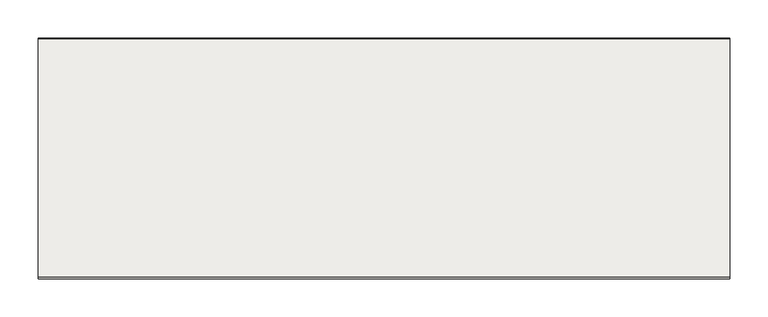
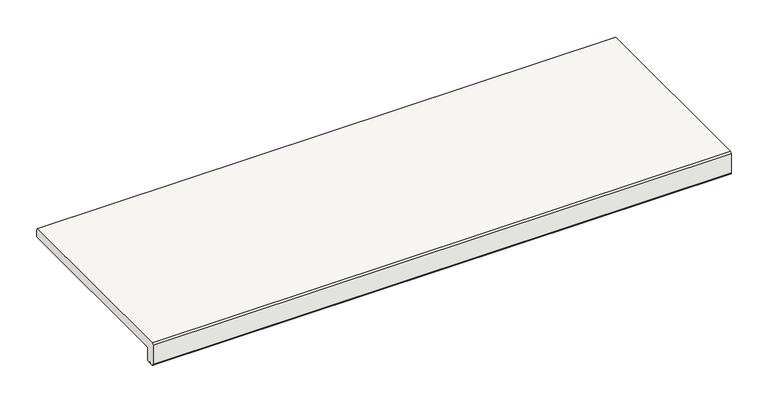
"""IFC4 building model written with IfcOpenShell, lengths in millimetres: slab geometry, ROSA GRES_L62 : Pieza L62_Tresor_Java_Anti-Slip."""

import ifcopenshell
import ifcopenshell.guid

model = None  # the IFC model being written
_history = None  # IfcOwnerHistory: only IFC2X3 demands one
_inside = {}  # id of a spatial element -> (the spatial element, [elements in it])
_under = {}  # id of a project, library or spatial element -> (it, [spatial elements below it])
_declared = {}  # id of a project -> (the project, [libraries it declares])
_typed = {}  # id of a type object -> (the type object, [elements of that type])
_made_of = {}  # id of a material, layer set ... -> (it, [elements and type objects made of it])


def new_model(schema):
    """Start an empty IFC model of exactly this schema.

    Asked for "IFC4X3", IfcOpenShell would pick the latest addendum, in which some entities
    have other attributes; the version numbers below select the first issue.
    IFC2X3 requires an IfcOwnerHistory on every rooted entity: one is made here for all.
    """
    global model, _history
    if schema == "IFC4X3":
        model = ifcopenshell.file(schema_version=(4, 3, 0, 0))
    else:
        model = ifcopenshell.file(schema=schema)
    _inside.clear()
    _under.clear()
    _declared.clear()
    _typed.clear()
    _made_of.clear()
    _history = None
    if model.schema == "IFC2X3":
        org = make("IfcOrganization", Name="unknown")
        user = make(
            "IfcPersonAndOrganization",
            ThePerson=make("IfcPerson", FamilyName="unknown"),
            TheOrganization=org,
        )
        app = make(
            "IfcApplication",
            ApplicationDeveloper=org,
            Version="unknown",
            ApplicationFullName="unknown",
            ApplicationIdentifier="unknown",
        )
        _history = make(
            "IfcOwnerHistory",
            OwningUser=user,
            OwningApplication=app,
            ChangeAction="ADDED",
            CreationDate=0,
        )
    return model


def make(cls, **values):
    """One entity of the class cls with the attributes given. An attribute that is None is left unset."""
    return model.create_entity(
        cls, **{name: value for name, value in values.items() if value is not None}
    )


def rooted(cls, **values):
    """An entity with a GlobalId (a new one), such as an element, a storey or a relation."""
    return make(cls, GlobalId=ifcopenshell.guid.new(), OwnerHistory=_history, **values)


def si_unit(unit_type, name, prefix=None):
    """IfcSIUnit, for example si_unit("LENGTHUNIT", "METRE", prefix="MILLI")."""
    return make("IfcSIUnit", UnitType=unit_type, Prefix=prefix, Name=name)


def assignment(units):
    """IfcUnitAssignment: the units of a project."""
    return None if units is None else make("IfcUnitAssignment", Units=units)


def point(xyz):
    """IfcCartesianPoint."""
    return None if xyz is None else make("IfcCartesianPoint", Coordinates=xyz)


def direction(xyz):
    """IfcDirection."""
    return None if xyz is None else make("IfcDirection", DirectionRatios=xyz)


def frame(location, z_axis=None, x_axis=None):
    """IfcAxis2Placement3D, a coordinate frame: its origin and axes. An axis left out is left unset."""
    return make(
        "IfcAxis2Placement3D",
        Location=point(location),
        Axis=direction(z_axis),
        RefDirection=direction(x_axis),
    )


def frame_2d(location, x_axis=None):
    """IfcAxis2Placement2D, a coordinate frame in the plane: its origin and x axis."""
    return make(
        "IfcAxis2Placement2D", Location=point(location), RefDirection=direction(x_axis)
    )


def origin():
    """The frame at (0, 0, 0) with its axes left unset."""
    return frame((0.0, 0.0, 0.0))


def place(relative_to, where):
    """IfcLocalPlacement: puts the frame where relative to a parent placement (None: the world)."""
    return make(
        "IfcLocalPlacement", PlacementRelTo=relative_to, RelativePlacement=where
    )


def context(
    kind, dimensions, precision=None, world=None, true_north=None, identifier=None
):
    """IfcGeometricRepresentationContext, for example the 3D "Model" context."""
    return make(
        "IfcGeometricRepresentationContext",
        ContextIdentifier=identifier,
        ContextType=kind,
        CoordinateSpaceDimension=dimensions,
        Precision=precision,
        WorldCoordinateSystem=world,
        TrueNorth=true_north,
    )


def project(units=None, contexts=None):
    """IfcProject with its units and contexts."""
    return rooted(
        "IfcProject",
        Name="project",
        RepresentationContexts=contexts,
        UnitsInContext=assignment(units),
    )


def spatial(cls, under=None, at=None, **own):
    """A site, building, storey or space (cls), placed at a placement, below another one or the project."""
    s = rooted(cls, ObjectPlacement=at, **own)
    if under is not None:
        _under.setdefault(under.id(), (under, []))[1].append(s)
    return s


def polyline(points):
    """IfcPolyline through the points."""
    return make("IfcPolyline", Points=[point(p) for p in points])


def circle_curve(where, radius):
    """IfcCircle in the frame where."""
    return make("IfcCircle", Position=where, Radius=radius)


def trimmed(basis, trim1, trim2, sense, master):
    """IfcTrimmedCurve: the piece of a basis curve between two trims."""
    return make(
        "IfcTrimmedCurve",
        BasisCurve=basis,
        Trim1=trim1,
        Trim2=trim2,
        SenseAgreement=sense,
        MasterRepresentation=master,
    )


def segment(curve, same_sense, transition):
    """IfcCompositeCurveSegment."""
    return make(
        "IfcCompositeCurveSegment",
        Transition=transition,
        SameSense=same_sense,
        ParentCurve=curve,
    )


def composite_curve(segments, self_intersect=None):
    """IfcCompositeCurve: segments joined end to end."""
    return make("IfcCompositeCurve", Segments=segments, SelfIntersect=self_intersect)


def outline(outer, holes=None, kind="AREA"):
    """IfcArbitraryClosedProfileDef: a profile drawn as a closed curve; with holes, ...WithVoids."""
    if holes is None:
        return make("IfcArbitraryClosedProfileDef", ProfileType=kind, OuterCurve=outer)
    return make(
        "IfcArbitraryProfileDefWithVoids",
        ProfileType=kind,
        OuterCurve=outer,
        InnerCurves=holes,
    )


def extrude(swept, where, along, depth):
    """IfcExtrudedAreaSolid: the profile swept, set in the frame where, extruded along a direction by depth."""
    return make(
        "IfcExtrudedAreaSolid",
        SweptArea=swept,
        Position=where,
        ExtrudedDirection=direction(along),
        Depth=depth,
    )


def shape(context_of_items, identifier, shape_type, items):
    """IfcShapeRepresentation: the items that make up one representation, for example the "Body"."""
    return make(
        "IfcShapeRepresentation",
        ContextOfItems=context_of_items,
        RepresentationIdentifier=identifier,
        RepresentationType=shape_type,
        Items=items,
    )


def source(mapping_origin, context_of_items, identifier, shape_type, items):
    """IfcRepresentationMap: a shape defined once, which mapped items show again and again."""
    return make(
        "IfcRepresentationMap",
        MappingOrigin=mapping_origin,
        MappedRepresentation=shape(context_of_items, identifier, shape_type, items),
    )


def transform(
    local_origin,
    x_axis=None,
    y_axis=None,
    z_axis=None,
    scale=None,
    scale2=None,
    scale3=None,
    uniform=True,
):
    """IfcCartesianTransformationOperator3D, or its non-uniform kind. x_axis, y_axis, z_axis: its Axis1, 2, 3."""
    if uniform:
        return make(
            "IfcCartesianTransformationOperator3D",
            Axis1=direction(x_axis),
            Axis2=direction(y_axis),
            LocalOrigin=point(local_origin),
            Scale=scale,
            Axis3=direction(z_axis),
        )
    return make(
        "IfcCartesianTransformationOperator3DnonUniform",
        Axis1=direction(x_axis),
        Axis2=direction(y_axis),
        LocalOrigin=point(local_origin),
        Scale=scale,
        Axis3=direction(z_axis),
        Scale2=scale2,
        Scale3=scale3,
    )


def mapped(mapping_source, mapping_target):
    """IfcMappedItem: shows the shape of a source again, moved by a transform."""
    return make(
        "IfcMappedItem", MappingSource=mapping_source, MappingTarget=mapping_target
    )


def made_of(thing, what):
    """Note that an element or type object is made of a material, layer set ...; save() writes the relation."""
    if what is not None:
        _made_of.setdefault(what.id(), (what, []))[1].append(thing)
    return thing


def element(
    cls,
    number,
    at=None,
    inside=None,
    cuts=None,
    type_object=None,
    material=None,
    context=None,
    identifier="Body",
    shape_type=None,
    held_by="IfcProductDefinitionShape",
    body=None,
    shapes=None,
    **own,
):
    """One element of the class cls, such as IfcWall. Its Tag is "e" and its number.

    at: its placement. inside: the storey or other place that contains it. cuts: it is an
    opening in that element (IfcRelVoidsElement). A single representation is given by context,
    identifier, shape_type and body (its items); several are given by shapes. held_by: the class
    of the entity that holds the representations. save() writes the other relations.
    """
    e = rooted(cls, Tag="e%d" % number, ObjectPlacement=at, **own)
    if body is not None:
        shapes = [shape(context, identifier, shape_type, body)]
    if shapes is not None:
        e.Representation = make(held_by, Representations=shapes)
    if inside is not None:
        _inside.setdefault(inside.id(), (inside, []))[1].append(e)
    if cuts is not None:
        rooted(
            "IfcRelVoidsElement", RelatingBuildingElement=cuts, RelatedOpeningElement=e
        )
    if type_object is not None:
        _typed.setdefault(type_object.id(), (type_object, []))[1].append(e)
    return made_of(e, material)


def aggregate(whole, parts):
    """IfcRelAggregates: a whole, such as a stair, and the parts it consists of."""
    return rooted("IfcRelAggregates", RelatingObject=whole, RelatedObjects=parts)


def save(model, path):
    """Write the relations noted so far, then the file.

    IfcRelAggregates (storeys below a building ...), IfcRelContainedInSpatialStructure (elements
    in a storey), IfcRelDefinesByType, IfcRelAssociatesMaterial and IfcRelDeclares: one each for
    every whole, place, type object, material and project.
    """
    for whole, parts in _under.values():
        aggregate(whole, parts)
    for where, things in _inside.values():
        rooted(
            "IfcRelContainedInSpatialStructure",
            RelatedElements=things,
            RelatingStructure=where,
        )
    for kind, things in _typed.values():
        rooted("IfcRelDefinesByType", RelatedObjects=things, RelatingType=kind)
    for what, things in _made_of.values():
        rooted("IfcRelAssociatesMaterial", RelatedObjects=things, RelatingMaterial=what)
    for by, libraries in _declared.values():
        rooted("IfcRelDeclares", RelatingContext=by, RelatedDefinitions=libraries)
    model.write(path)


def slab_a0713d1b(model_context):
    return source(origin(), model_context, "Body", "SweptSolid", [
        extrude(outline(composite_curve([segment(polyline([(12.1001991, -37.0), (9.4054777, -37.0)]), True, "CONTINUOUS"), segment(trimmed(circle_curve(frame_2d((7.4142134, -37.0)), 1.9912643), [point((9.4054777, -37.0))], [point((5.422949, -37.0))], True, "CARTESIAN"), True, "CONTINUOUS"), segment(polyline([(5.422949, -37.0), (2.5, -37.0)]), True, "CONTINUOUS"), segment(trimmed(circle_curve(frame_2d((2.5, -34.5)), 2.5), [point((2.5, -37.0))], [point((0.0, -34.5))], False, "CARTESIAN"), True, "CONTINUOUS"), segment(polyline([(0.0, -34.5), (0.0, -2.5), (2.5, 0.0), (315.5, 0.0), (317.0, -2.5), (317.0, -12.4648352)]), True, "CONTINUOUS"), segment(trimmed(circle_curve(frame_2d((315.5234432, -12.4648352)), 1.4765568), [point((317.0, -12.4648352))], [point((315.5234432, -13.9413919))], False, "CARTESIAN"), True, "CONTINUOUS"), segment(polyline([(315.5234432, -13.9413919), (16.6422322, -13.9413919)]), True, "CONTINUOUS"), segment(trimmed(circle_curve(frame_2d((16.6422322, -16.5836242)), 2.6422322), [point((16.6422322, -13.9413919))], [point((14.0, -16.5836242))], True, "CARTESIAN"), True, "CONTINUOUS"), segment(polyline([(14.0, -16.5836242), (14.0, -35.1001991)]), True, "CONTINUOUS"), segment(trimmed(circle_curve(frame_2d((12.1001991, -35.1001991)), 1.8998009), [point((14.0, -35.1001991))], [point((12.1001991, -37.0))], False, "CARTESIAN"), True, "CONTINUOUS")], self_intersect=False)), frame((0.0, 0.0, 0.0), z_axis=(1.0, 0.0, 0.0), x_axis=(0.0, 1.0, 0.0)), (0.0, 0.0, 1.0), 910.0),
    ])


if __name__ == "__main__":
    model = new_model("IFC4")
    model_context = context("Model", 3, world=origin())
    ifc_project = project(units=[si_unit("LENGTHUNIT", "METRE", prefix="MILLI")], contexts=[model_context])
    site = spatial("IfcSite", under=ifc_project)
    building = spatial("IfcBuilding", under=site)
    placement = place(None, origin())
    slab_shape = slab_a0713d1b(model_context)
    element("IfcSlab", 1, ObjectType="ROSA GRES_L62 : Pieza L62_Tresor_Java_Anti-Slip", at=placement, inside=building, context=model_context, shape_type="MappedRepresentation", body=[
        mapped(slab_shape, transform((0.0, 0.0, 0.0), x_axis=(1.0, 0.0, 0.0), y_axis=(0.0, 1.0, 0.0), z_axis=(0.0, 0.0, 1.0))),
    ])
    save(model, "model.ifc")
